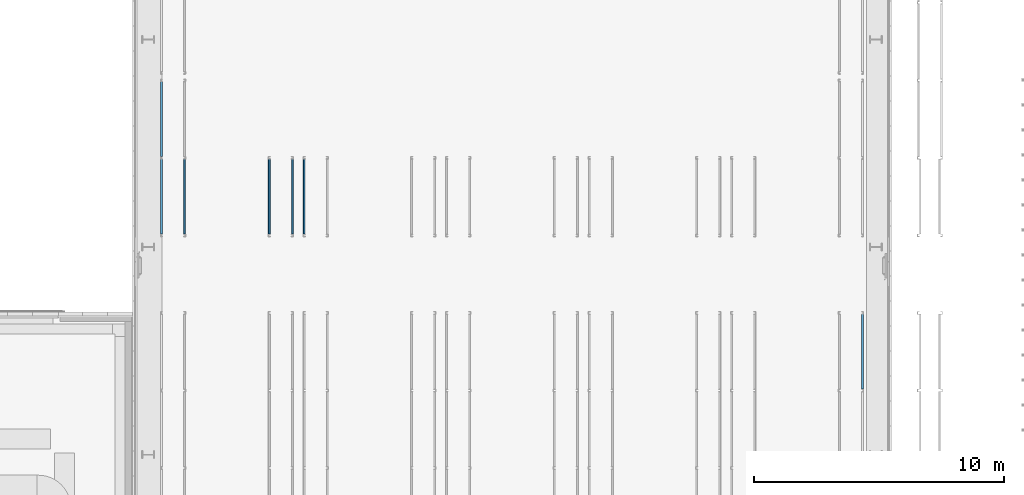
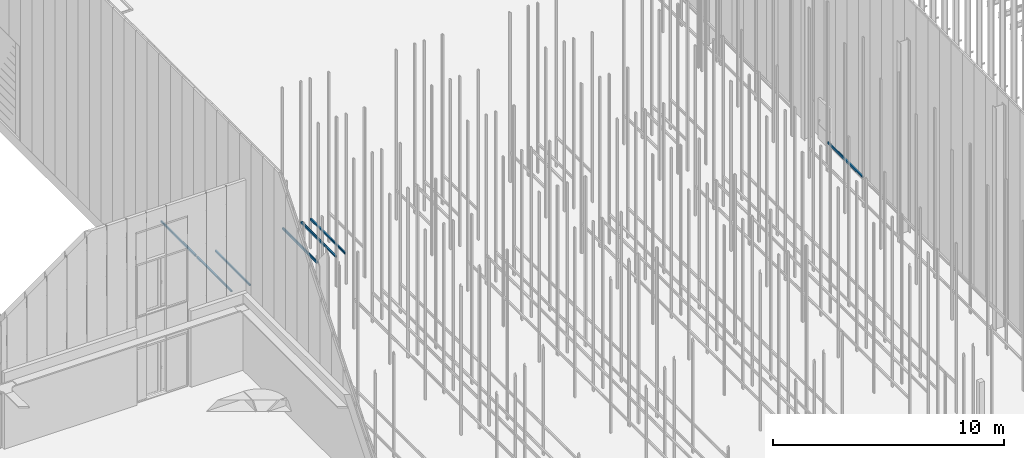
# One storey, part 153 of 302: 9 beams.
"""IFC2X3 building model written with IfcOpenShell, lengths in metres."""

from ifc_helpers import new_model, entity, si_unit, converted_unit, derived_unit, direction, frame, frame_2d, origin, place, context, subcontext, project, spatial, polyline, circle_curve, parameter, trimmed, segment, composite_curve, outline, extrude, material, type_object, element, save


model = new_model("IFC2X3")

# Units and contexts
model_context = context("Model", 3, precision=1e-05, world=origin(), true_north=direction((6.12303176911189e-17, 1.0)))
body_context = subcontext(model_context, "Body", "Model", "MODEL_VIEW")
ifc_project = project(units=[si_unit("LENGTHUNIT", "METRE"), si_unit("AREAUNIT", "SQUARE_METRE"), si_unit("VOLUMEUNIT", "CUBIC_METRE"), converted_unit("PLANEANGLEUNIT", "DEGREE", entity("IfcRatioMeasure", 0.0174532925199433), si_unit("PLANEANGLEUNIT", "RADIAN"), dimensions=[0, 0, 0, 0, 0, 0, 0]), si_unit("MASSUNIT", "GRAM", prefix="KILO"), derived_unit("MASSDENSITYUNIT", [(si_unit("MASSUNIT", "GRAM", prefix="KILO"), 1), (si_unit("LENGTHUNIT", "METRE"), -3)]), derived_unit("MOMENTOFINERTIAUNIT", [(si_unit("LENGTHUNIT", "METRE"), 4)]), si_unit("TIMEUNIT", "SECOND"), si_unit("FREQUENCYUNIT", "HERTZ"), si_unit("THERMODYNAMICTEMPERATUREUNIT", "DEGREE_CELSIUS"), derived_unit("THERMALTRANSMITTANCEUNIT", [(si_unit("MASSUNIT", "GRAM", prefix="KILO"), 1), (si_unit("THERMODYNAMICTEMPERATUREUNIT", "KELVIN"), -1), (si_unit("TIMEUNIT", "SECOND"), -3)]), derived_unit("VOLUMETRICFLOWRATEUNIT", [(si_unit("LENGTHUNIT", "METRE"), 3), (si_unit("TIMEUNIT", "SECOND"), -1)]), si_unit("ELECTRICCURRENTUNIT", "AMPERE"), si_unit("ELECTRICVOLTAGEUNIT", "VOLT"), si_unit("POWERUNIT", "WATT"), si_unit("FORCEUNIT", "NEWTON", prefix="KILO"), si_unit("ILLUMINANCEUNIT", "LUX"), si_unit("LUMINOUSFLUXUNIT", "LUMEN"), si_unit("LUMINOUSINTENSITYUNIT", "CANDELA"), derived_unit("USERDEFINED", [(si_unit("MASSUNIT", "GRAM", prefix="KILO"), -1), (si_unit("LENGTHUNIT", "METRE"), -2), (si_unit("TIMEUNIT", "SECOND"), 3), (si_unit("LUMINOUSFLUXUNIT", "LUMEN"), 1)]), derived_unit("LINEARVELOCITYUNIT", [(si_unit("LENGTHUNIT", "METRE"), 1), (si_unit("TIMEUNIT", "SECOND"), -1)]), si_unit("PRESSUREUNIT", "PASCAL"), derived_unit("USERDEFINED", [(si_unit("LENGTHUNIT", "METRE"), -2), (si_unit("MASSUNIT", "GRAM", prefix="KILO"), 1), (si_unit("TIMEUNIT", "SECOND"), -2)]), derived_unit("LINEARFORCEUNIT", [(si_unit("MASSUNIT", "GRAM", prefix="KILO"), 1), (si_unit("LENGTHUNIT", "METRE"), 1), (si_unit("TIMEUNIT", "SECOND"), -2), (si_unit("LENGTHUNIT", "METRE"), -1)]), derived_unit("PLANARFORCEUNIT", [(si_unit("MASSUNIT", "GRAM", prefix="KILO"), 1), (si_unit("LENGTHUNIT", "METRE"), 1), (si_unit("TIMEUNIT", "SECOND"), -2), (si_unit("LENGTHUNIT", "METRE"), -2)])], contexts=[model_context])

# Site, building, storey
site_placement = place(None, origin())
site = spatial("IfcSite", under=ifc_project, at=site_placement, Name="Default", CompositionType="ELEMENT")
building_placement = place(site_placement, origin())
building = spatial("IfcBuilding", under=site, at=building_placement, CompositionType="ELEMENT")
storey_placement = place(building_placement, frame((0.0, 0.0, -1.3)))
storey = spatial("IfcBuildingStorey", under=building, at=storey_placement, Name="00_EG", CompositionType="ELEMENT", Elevation=-1.3)

# Beams
ifc_material = material(Name="Metall - Baustahl S235 blau")
beam_type = type_object("IfcBeamType", Name="RHS Träger (EN 10219-2):RHS 100 x 75 x 5", PredefinedType="NOTDEFINED")
beam_1_placement = place(storey_placement, frame((-178.465111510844, 42.6480889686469, 2.885), z_axis=(0.0, 0.0, 1.0), x_axis=(0.0, 1.0, 0.0)))
element("IfcBeam", 1, at=beam_1_placement, inside=storey, type_object=beam_type, material=ifc_material, Name="RHS Träger (EN 10219-2):RHS 100 x 75 x 5", ObjectType="RHS Träger (EN 10219-2):RHS 100 x 75 x 5", context=body_context, shape_type="SweptSolid", body=[
    extrude(outline(composite_curve([segment(polyline([(-0.0399999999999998, -0.0374999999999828), (0.0400000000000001, -0.0374999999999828)]), True, "CONTINUOUS"), segment(trimmed(circle_curve(frame_2d((0.0399999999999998, -0.0274999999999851), x_axis=(0.0, 1.0)), 0.01), [parameter(180.0)], [parameter(270.0)], True, "PARAMETER"), True, "CONTINUOUS"), segment(polyline([(0.05, -0.0274999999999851), (0.05, 0.0274999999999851)]), True, "CONTINUOUS"), segment(trimmed(circle_curve(frame_2d((0.0399999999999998, 0.0274999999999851), x_axis=(0.0, 1.0)), 0.01), [parameter(270.0)], [parameter(4.07110999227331e-13)], True, "PARAMETER"), True, "CONTINUOUS"), segment(polyline([(0.0400000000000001, 0.0375000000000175), (-0.0399999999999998, 0.0375000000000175)]), True, "CONTINUOUS"), segment(trimmed(circle_curve(frame_2d((-0.0400000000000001, 0.0274999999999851), x_axis=(0.0, 1.0)), 0.01), [parameter(360.0)], [parameter(90.0000000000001)], True, "PARAMETER"), True, "CONTINUOUS"), segment(polyline([(-0.05, 0.0274999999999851), (-0.05, -0.0274999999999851)]), True, "CONTINUOUS"), segment(trimmed(circle_curve(frame_2d((-0.0400000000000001, -0.0274999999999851), x_axis=(0.0, 1.0)), 0.01), [parameter(90.0000000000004)], [parameter(180.0)], True, "PARAMETER"), True, "CONTINUOUS")], self_intersect=False), holes=[composite_curve([segment(trimmed(circle_curve(frame_2d((-0.0400000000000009, 0.0274999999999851), x_axis=(0.0, 1.0)), 0.005), [parameter(360.0)], [parameter(89.9999999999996)], True, "PARAMETER"), False, "CONTINUOUS"), segment(polyline([(-0.0400000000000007, 0.0325000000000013), (0.0399999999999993, 0.0325000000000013)]), True, "CONTINUOUS"), segment(trimmed(circle_curve(frame_2d((0.039999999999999, 0.0274999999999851), x_axis=(0.0, 1.0)), 0.005), [parameter(270.0)], [parameter(0.0)], True, "PARAMETER"), False, "CONTINUOUS"), segment(polyline([(0.0449999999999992, 0.0274999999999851), (0.0449999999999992, -0.0274999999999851)]), True, "CONTINUOUS"), segment(trimmed(circle_curve(frame_2d((0.039999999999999, -0.0274999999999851), x_axis=(0.0, 1.0)), 0.005), [parameter(180.0)], [parameter(269.999999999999)], True, "PARAMETER"), False, "CONTINUOUS"), segment(polyline([(0.0399999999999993, -0.0325000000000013), (-0.0400000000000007, -0.0325000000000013)]), True, "CONTINUOUS"), segment(trimmed(circle_curve(frame_2d((-0.0400000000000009, -0.0274999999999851), x_axis=(0.0, 1.0)), 0.005), [parameter(90.0000000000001)], [parameter(180.0)], True, "PARAMETER"), False, "CONTINUOUS"), segment(polyline([(-0.0450000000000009, -0.0274999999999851), (-0.0450000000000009, 0.0274999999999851)]), True, "CONTINUOUS")], self_intersect=False)]), frame((0.000100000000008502, -0.0375000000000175, -0.0500000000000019), z_axis=(1.0, 0.0, 0.0), x_axis=(0.0, 0.0, -1.0)), (0.0, 0.0, 1.0), 2.99979999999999),
])
beam_2_placement = place(storey_placement, frame((-200.715111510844, 48.848088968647, 2.885), z_axis=(0.0, 0.0, 1.0), x_axis=(0.0, 1.0, 0.0)))
element("IfcBeam", 2, at=beam_2_placement, inside=storey, type_object=beam_type, material=ifc_material, Name="RHS Träger (EN 10219-2):RHS 100 x 75 x 5", ObjectType="RHS Träger (EN 10219-2):RHS 100 x 75 x 5", context=body_context, shape_type="SweptSolid", body=[
    extrude(outline(composite_curve([segment(trimmed(circle_curve(frame_2d((-0.0274999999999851, -0.0400000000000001), x_axis=(1.0, 0.0)), 0.01), [parameter(180.0)], [parameter(270.0)], True, "PARAMETER"), True, "CONTINUOUS"), segment(polyline([(-0.0274999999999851, -0.05), (0.0274999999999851, -0.05)]), True, "CONTINUOUS"), segment(trimmed(circle_curve(frame_2d((0.0274999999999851, -0.0400000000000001), x_axis=(1.0, 0.0)), 0.01), [parameter(270.0)], [parameter(5.08888749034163e-14)], True, "PARAMETER"), True, "CONTINUOUS"), segment(polyline([(0.0375000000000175, -0.0399999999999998), (0.0375000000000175, 0.0400000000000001)]), True, "CONTINUOUS"), segment(trimmed(circle_curve(frame_2d((0.0274999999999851, 0.0399999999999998), x_axis=(1.0, 0.0)), 0.01), [parameter(360.0)], [parameter(89.9999999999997)], True, "PARAMETER"), True, "CONTINUOUS"), segment(polyline([(0.0274999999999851, 0.05), (-0.0274999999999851, 0.05)]), True, "CONTINUOUS"), segment(trimmed(circle_curve(frame_2d((-0.0274999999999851, 0.0399999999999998), x_axis=(1.0, 0.0)), 0.01), [parameter(90.0000000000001)], [parameter(180.0)], True, "PARAMETER"), True, "CONTINUOUS"), segment(polyline([(-0.0374999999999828, 0.0400000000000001), (-0.0374999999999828, -0.0399999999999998)]), True, "CONTINUOUS")], self_intersect=False), holes=[composite_curve([segment(polyline([(0.0274999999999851, -0.0450000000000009), (-0.0274999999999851, -0.0450000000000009)]), True, "CONTINUOUS"), segment(trimmed(circle_curve(frame_2d((-0.0274999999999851, -0.0400000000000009), x_axis=(1.0, 0.0)), 0.005), [parameter(180.0)], [parameter(270.0)], True, "PARAMETER"), False, "CONTINUOUS"), segment(polyline([(-0.0325000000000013, -0.0400000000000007), (-0.0325000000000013, 0.0399999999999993)]), True, "CONTINUOUS"), segment(trimmed(circle_curve(frame_2d((-0.0274999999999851, 0.039999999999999), x_axis=(1.0, 0.0)), 0.005), [parameter(90.0000000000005)], [parameter(180.0)], True, "PARAMETER"), False, "CONTINUOUS"), segment(polyline([(-0.0274999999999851, 0.0449999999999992), (0.0274999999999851, 0.0449999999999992)]), True, "CONTINUOUS"), segment(trimmed(circle_curve(frame_2d((0.0274999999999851, 0.039999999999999), x_axis=(1.0, 0.0)), 0.005), [parameter(0.0)], [parameter(90.0000000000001)], True, "PARAMETER"), False, "CONTINUOUS"), segment(polyline([(0.0325000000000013, 0.0399999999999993), (0.0325000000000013, -0.0400000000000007)]), True, "CONTINUOUS"), segment(trimmed(circle_curve(frame_2d((0.0274999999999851, -0.0400000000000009), x_axis=(1.0, 0.0)), 0.005), [parameter(270.0)], [parameter(4.07110999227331e-13)], True, "PARAMETER"), False, "CONTINUOUS")], self_intersect=False)]), frame((0.000100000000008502, 0.0375000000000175, -0.0500000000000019), z_axis=(1.0, 0.0, 0.0), x_axis=(0.0, -1.0, 0.0)), (0.0, 0.0, 1.0), 2.99979999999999),
])
beam_3_placement = place(storey_placement, frame((-202.105111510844, 48.848088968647, 2.885), z_axis=(0.0, 0.0, 1.0), x_axis=(0.0, 1.0, 0.0)))
element("IfcBeam", 3, at=beam_3_placement, inside=storey, type_object=beam_type, material=ifc_material, Name="RHS Träger (EN 10219-2):RHS 100 x 75 x 5", ObjectType="RHS Träger (EN 10219-2):RHS 100 x 75 x 5", context=body_context, shape_type="SweptSolid", body=[
    extrude(outline(composite_curve([segment(trimmed(circle_curve(frame_2d((-0.0274999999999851, -0.0400000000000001), x_axis=(1.0, 0.0)), 0.01), [parameter(180.0)], [parameter(270.0)], True, "PARAMETER"), True, "CONTINUOUS"), segment(polyline([(-0.0274999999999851, -0.05), (0.0274999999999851, -0.05)]), True, "CONTINUOUS"), segment(trimmed(circle_curve(frame_2d((0.0274999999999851, -0.0400000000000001), x_axis=(1.0, 0.0)), 0.01), [parameter(270.0)], [parameter(5.08888749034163e-14)], True, "PARAMETER"), True, "CONTINUOUS"), segment(polyline([(0.0375000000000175, -0.0399999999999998), (0.0375000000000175, 0.0400000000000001)]), True, "CONTINUOUS"), segment(trimmed(circle_curve(frame_2d((0.0274999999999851, 0.0399999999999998), x_axis=(1.0, 0.0)), 0.01), [parameter(360.0)], [parameter(89.9999999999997)], True, "PARAMETER"), True, "CONTINUOUS"), segment(polyline([(0.0274999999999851, 0.05), (-0.0274999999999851, 0.05)]), True, "CONTINUOUS"), segment(trimmed(circle_curve(frame_2d((-0.0274999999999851, 0.0399999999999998), x_axis=(1.0, 0.0)), 0.01), [parameter(90.0000000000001)], [parameter(180.0)], True, "PARAMETER"), True, "CONTINUOUS"), segment(polyline([(-0.0374999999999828, 0.0400000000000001), (-0.0374999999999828, -0.0399999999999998)]), True, "CONTINUOUS")], self_intersect=False), holes=[composite_curve([segment(polyline([(0.0274999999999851, -0.0450000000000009), (-0.0274999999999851, -0.0450000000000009)]), True, "CONTINUOUS"), segment(trimmed(circle_curve(frame_2d((-0.0274999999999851, -0.0400000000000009), x_axis=(1.0, 0.0)), 0.005), [parameter(180.0)], [parameter(270.0)], True, "PARAMETER"), False, "CONTINUOUS"), segment(polyline([(-0.0325000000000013, -0.0400000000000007), (-0.0325000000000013, 0.0399999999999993)]), True, "CONTINUOUS"), segment(trimmed(circle_curve(frame_2d((-0.0274999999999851, 0.039999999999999), x_axis=(1.0, 0.0)), 0.005), [parameter(90.0000000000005)], [parameter(180.0)], True, "PARAMETER"), False, "CONTINUOUS"), segment(polyline([(-0.0274999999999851, 0.0449999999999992), (0.0274999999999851, 0.0449999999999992)]), True, "CONTINUOUS"), segment(trimmed(circle_curve(frame_2d((0.0274999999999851, 0.039999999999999), x_axis=(1.0, 0.0)), 0.005), [parameter(0.0)], [parameter(90.0000000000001)], True, "PARAMETER"), False, "CONTINUOUS"), segment(polyline([(0.0325000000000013, 0.0399999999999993), (0.0325000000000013, -0.0400000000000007)]), True, "CONTINUOUS"), segment(trimmed(circle_curve(frame_2d((0.0274999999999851, -0.0400000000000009), x_axis=(1.0, 0.0)), 0.005), [parameter(270.0)], [parameter(4.07110999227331e-13)], True, "PARAMETER"), False, "CONTINUOUS")], self_intersect=False)]), frame((0.000100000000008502, 0.0375000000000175, -0.0500000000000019), z_axis=(1.0, 0.0, 0.0), x_axis=(0.0, -1.0, 0.0)), (0.0, 0.0, 1.0), 2.99979999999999),
])
beam_4_placement = place(storey_placement, frame((-201.255111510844, 48.848088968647, 2.885), z_axis=(0.0, 0.0, 1.0), x_axis=(0.0, 1.0, 0.0)))
element("IfcBeam", 4, at=beam_4_placement, inside=storey, type_object=beam_type, material=ifc_material, Name="RHS Träger (EN 10219-2):RHS 100 x 75 x 5", ObjectType="RHS Träger (EN 10219-2):RHS 100 x 75 x 5", context=body_context, shape_type="SweptSolid", body=[
    extrude(outline(composite_curve([segment(polyline([(-0.0399999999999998, -0.0374999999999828), (0.0400000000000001, -0.0374999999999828)]), True, "CONTINUOUS"), segment(trimmed(circle_curve(frame_2d((0.0399999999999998, -0.0274999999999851), x_axis=(0.0, 1.0)), 0.01), [parameter(180.0)], [parameter(270.0)], True, "PARAMETER"), True, "CONTINUOUS"), segment(polyline([(0.05, -0.0274999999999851), (0.05, 0.0274999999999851)]), True, "CONTINUOUS"), segment(trimmed(circle_curve(frame_2d((0.0399999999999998, 0.0274999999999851), x_axis=(0.0, 1.0)), 0.01), [parameter(270.0)], [parameter(4.07110999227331e-13)], True, "PARAMETER"), True, "CONTINUOUS"), segment(polyline([(0.0400000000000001, 0.0375000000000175), (-0.0399999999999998, 0.0375000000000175)]), True, "CONTINUOUS"), segment(trimmed(circle_curve(frame_2d((-0.0400000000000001, 0.0274999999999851), x_axis=(0.0, 1.0)), 0.01), [parameter(360.0)], [parameter(90.0000000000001)], True, "PARAMETER"), True, "CONTINUOUS"), segment(polyline([(-0.05, 0.0274999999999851), (-0.05, -0.0274999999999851)]), True, "CONTINUOUS"), segment(trimmed(circle_curve(frame_2d((-0.0400000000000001, -0.0274999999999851), x_axis=(0.0, 1.0)), 0.01), [parameter(90.0000000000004)], [parameter(180.0)], True, "PARAMETER"), True, "CONTINUOUS")], self_intersect=False), holes=[composite_curve([segment(trimmed(circle_curve(frame_2d((-0.0400000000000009, 0.0274999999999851), x_axis=(0.0, 1.0)), 0.005), [parameter(360.0)], [parameter(89.9999999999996)], True, "PARAMETER"), False, "CONTINUOUS"), segment(polyline([(-0.0400000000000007, 0.0325000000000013), (0.0399999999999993, 0.0325000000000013)]), True, "CONTINUOUS"), segment(trimmed(circle_curve(frame_2d((0.039999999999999, 0.0274999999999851), x_axis=(0.0, 1.0)), 0.005), [parameter(270.0)], [parameter(0.0)], True, "PARAMETER"), False, "CONTINUOUS"), segment(polyline([(0.0449999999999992, 0.0274999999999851), (0.0449999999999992, -0.0274999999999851)]), True, "CONTINUOUS"), segment(trimmed(circle_curve(frame_2d((0.039999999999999, -0.0274999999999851), x_axis=(0.0, 1.0)), 0.005), [parameter(180.0)], [parameter(269.999999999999)], True, "PARAMETER"), False, "CONTINUOUS"), segment(polyline([(0.0399999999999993, -0.0325000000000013), (-0.0400000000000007, -0.0325000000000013)]), True, "CONTINUOUS"), segment(trimmed(circle_curve(frame_2d((-0.0400000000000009, -0.0274999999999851), x_axis=(0.0, 1.0)), 0.005), [parameter(90.0000000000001)], [parameter(180.0)], True, "PARAMETER"), False, "CONTINUOUS"), segment(polyline([(-0.0450000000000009, -0.0274999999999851), (-0.0450000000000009, 0.0274999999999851)]), True, "CONTINUOUS")], self_intersect=False)]), frame((0.000100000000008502, -0.0375000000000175, -0.0500000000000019), z_axis=(1.0, 0.0, 0.0), x_axis=(0.0, 0.0, -1.0)), (0.0, 0.0, 1.0), 2.99979999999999),
])
beam_5_placement = place(storey_placement, frame((-206.415111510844, 48.848088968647, 2.885), z_axis=(0.0, 0.0, 1.0), x_axis=(0.0, 1.0, 0.0)))
element("IfcBeam", 5, at=beam_5_placement, inside=storey, type_object=beam_type, material=ifc_material, Name="RHS Träger (EN 10219-2):RHS 100 x 75 x 5", ObjectType="RHS Träger (EN 10219-2):RHS 100 x 75 x 5", context=body_context, shape_type="SweptSolid", body=[
    extrude(outline(composite_curve([segment(trimmed(circle_curve(frame_2d((-0.0274999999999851, -0.0400000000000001), x_axis=(1.0, 0.0)), 0.01), [parameter(180.0)], [parameter(270.0)], True, "PARAMETER"), True, "CONTINUOUS"), segment(polyline([(-0.0274999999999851, -0.05), (0.0274999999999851, -0.05)]), True, "CONTINUOUS"), segment(trimmed(circle_curve(frame_2d((0.0274999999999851, -0.0400000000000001), x_axis=(1.0, 0.0)), 0.01), [parameter(270.0)], [parameter(5.08888749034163e-14)], True, "PARAMETER"), True, "CONTINUOUS"), segment(polyline([(0.0375000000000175, -0.0399999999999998), (0.0375000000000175, 0.0400000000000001)]), True, "CONTINUOUS"), segment(trimmed(circle_curve(frame_2d((0.0274999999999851, 0.0399999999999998), x_axis=(1.0, 0.0)), 0.01), [parameter(360.0)], [parameter(89.9999999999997)], True, "PARAMETER"), True, "CONTINUOUS"), segment(polyline([(0.0274999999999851, 0.05), (-0.0274999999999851, 0.05)]), True, "CONTINUOUS"), segment(trimmed(circle_curve(frame_2d((-0.0274999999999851, 0.0399999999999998), x_axis=(1.0, 0.0)), 0.01), [parameter(90.0000000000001)], [parameter(180.0)], True, "PARAMETER"), True, "CONTINUOUS"), segment(polyline([(-0.0374999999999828, 0.0400000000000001), (-0.0374999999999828, -0.0399999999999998)]), True, "CONTINUOUS")], self_intersect=False), holes=[composite_curve([segment(polyline([(0.0274999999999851, -0.0450000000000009), (-0.0274999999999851, -0.0450000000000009)]), True, "CONTINUOUS"), segment(trimmed(circle_curve(frame_2d((-0.0274999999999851, -0.0400000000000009), x_axis=(1.0, 0.0)), 0.005), [parameter(180.0)], [parameter(270.0)], True, "PARAMETER"), False, "CONTINUOUS"), segment(polyline([(-0.0325000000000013, -0.0400000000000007), (-0.0325000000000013, 0.0399999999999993)]), True, "CONTINUOUS"), segment(trimmed(circle_curve(frame_2d((-0.0274999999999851, 0.039999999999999), x_axis=(1.0, 0.0)), 0.005), [parameter(90.0000000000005)], [parameter(180.0)], True, "PARAMETER"), False, "CONTINUOUS"), segment(polyline([(-0.0274999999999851, 0.0449999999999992), (0.0274999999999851, 0.0449999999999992)]), True, "CONTINUOUS"), segment(trimmed(circle_curve(frame_2d((0.0274999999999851, 0.039999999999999), x_axis=(1.0, 0.0)), 0.005), [parameter(0.0)], [parameter(90.0000000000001)], True, "PARAMETER"), False, "CONTINUOUS"), segment(polyline([(0.0325000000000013, 0.0399999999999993), (0.0325000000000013, -0.0400000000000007)]), True, "CONTINUOUS"), segment(trimmed(circle_curve(frame_2d((0.0274999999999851, -0.0400000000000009), x_axis=(1.0, 0.0)), 0.005), [parameter(270.0)], [parameter(4.07110999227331e-13)], True, "PARAMETER"), False, "CONTINUOUS")], self_intersect=False)]), frame((0.000100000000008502, 0.0375000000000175, -0.0500000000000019), z_axis=(1.0, 0.0, 0.0), x_axis=(0.0, -1.0, 0.0)), (0.0, 0.0, 1.0), 2.99979999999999),
])
beam_6_placement = place(storey_placement, frame((-205.565111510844, 48.848088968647, 2.885), z_axis=(0.0, 0.0, 1.0), x_axis=(0.0, 1.0, 0.0)))
element("IfcBeam", 6, at=beam_6_placement, inside=storey, type_object=beam_type, material=ifc_material, Name="RHS Träger (EN 10219-2):RHS 100 x 75 x 5", ObjectType="RHS Träger (EN 10219-2):RHS 100 x 75 x 5", context=body_context, shape_type="SweptSolid", body=[
    extrude(outline(composite_curve([segment(polyline([(-0.0399999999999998, -0.0374999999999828), (0.0400000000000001, -0.0374999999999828)]), True, "CONTINUOUS"), segment(trimmed(circle_curve(frame_2d((0.0399999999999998, -0.0274999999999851), x_axis=(0.0, 1.0)), 0.01), [parameter(180.0)], [parameter(270.0)], True, "PARAMETER"), True, "CONTINUOUS"), segment(polyline([(0.05, -0.0274999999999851), (0.05, 0.0274999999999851)]), True, "CONTINUOUS"), segment(trimmed(circle_curve(frame_2d((0.0399999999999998, 0.0274999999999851), x_axis=(0.0, 1.0)), 0.01), [parameter(270.0)], [parameter(4.07110999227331e-13)], True, "PARAMETER"), True, "CONTINUOUS"), segment(polyline([(0.0400000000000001, 0.0375000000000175), (-0.0399999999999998, 0.0375000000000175)]), True, "CONTINUOUS"), segment(trimmed(circle_curve(frame_2d((-0.0400000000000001, 0.0274999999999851), x_axis=(0.0, 1.0)), 0.01), [parameter(360.0)], [parameter(90.0000000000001)], True, "PARAMETER"), True, "CONTINUOUS"), segment(polyline([(-0.05, 0.0274999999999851), (-0.05, -0.0274999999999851)]), True, "CONTINUOUS"), segment(trimmed(circle_curve(frame_2d((-0.0400000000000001, -0.0274999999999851), x_axis=(0.0, 1.0)), 0.01), [parameter(90.0000000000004)], [parameter(180.0)], True, "PARAMETER"), True, "CONTINUOUS")], self_intersect=False), holes=[composite_curve([segment(trimmed(circle_curve(frame_2d((-0.0400000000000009, 0.0274999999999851), x_axis=(0.0, 1.0)), 0.005), [parameter(360.0)], [parameter(89.9999999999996)], True, "PARAMETER"), False, "CONTINUOUS"), segment(polyline([(-0.0400000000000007, 0.0325000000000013), (0.0399999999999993, 0.0325000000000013)]), True, "CONTINUOUS"), segment(trimmed(circle_curve(frame_2d((0.039999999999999, 0.0274999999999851), x_axis=(0.0, 1.0)), 0.005), [parameter(270.0)], [parameter(0.0)], True, "PARAMETER"), False, "CONTINUOUS"), segment(polyline([(0.0449999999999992, 0.0274999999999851), (0.0449999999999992, -0.0274999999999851)]), True, "CONTINUOUS"), segment(trimmed(circle_curve(frame_2d((0.039999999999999, -0.0274999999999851), x_axis=(0.0, 1.0)), 0.005), [parameter(180.0)], [parameter(269.999999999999)], True, "PARAMETER"), False, "CONTINUOUS"), segment(polyline([(0.0399999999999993, -0.0325000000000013), (-0.0400000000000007, -0.0325000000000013)]), True, "CONTINUOUS"), segment(trimmed(circle_curve(frame_2d((-0.0400000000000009, -0.0274999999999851), x_axis=(0.0, 1.0)), 0.005), [parameter(90.0000000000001)], [parameter(180.0)], True, "PARAMETER"), False, "CONTINUOUS"), segment(polyline([(-0.0450000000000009, -0.0274999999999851), (-0.0450000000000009, 0.0274999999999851)]), True, "CONTINUOUS")], self_intersect=False)]), frame((0.000100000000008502, -0.0375000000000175, -0.0500000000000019), z_axis=(1.0, 0.0, 0.0), x_axis=(0.0, 0.0, -1.0)), (0.0, 0.0, 1.0), 2.99979999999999),
])
beam_7_placement = place(storey_placement, frame((-202.115111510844, 48.848088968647, 2.885), z_axis=(0.0, 0.0, 1.0), x_axis=(0.0, 1.0, 0.0)))
element("IfcBeam", 7, at=beam_7_placement, inside=storey, type_object=beam_type, material=ifc_material, Name="RHS Träger (EN 10219-2):RHS 100 x 75 x 5", ObjectType="RHS Träger (EN 10219-2):RHS 100 x 75 x 5", context=body_context, shape_type="SweptSolid", body=[
    extrude(outline(composite_curve([segment(trimmed(circle_curve(frame_2d((-0.0274999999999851, -0.0400000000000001), x_axis=(1.0, 0.0)), 0.01), [parameter(180.0)], [parameter(270.0)], True, "PARAMETER"), True, "CONTINUOUS"), segment(polyline([(-0.0274999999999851, -0.05), (0.0274999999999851, -0.05)]), True, "CONTINUOUS"), segment(trimmed(circle_curve(frame_2d((0.0274999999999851, -0.0400000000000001), x_axis=(1.0, 0.0)), 0.01), [parameter(270.0)], [parameter(5.08888749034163e-14)], True, "PARAMETER"), True, "CONTINUOUS"), segment(polyline([(0.0375000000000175, -0.0399999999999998), (0.0375000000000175, 0.0400000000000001)]), True, "CONTINUOUS"), segment(trimmed(circle_curve(frame_2d((0.0274999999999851, 0.0399999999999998), x_axis=(1.0, 0.0)), 0.01), [parameter(360.0)], [parameter(89.9999999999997)], True, "PARAMETER"), True, "CONTINUOUS"), segment(polyline([(0.0274999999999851, 0.05), (-0.0274999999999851, 0.05)]), True, "CONTINUOUS"), segment(trimmed(circle_curve(frame_2d((-0.0274999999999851, 0.0399999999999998), x_axis=(1.0, 0.0)), 0.01), [parameter(90.0000000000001)], [parameter(180.0)], True, "PARAMETER"), True, "CONTINUOUS"), segment(polyline([(-0.0374999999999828, 0.0400000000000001), (-0.0374999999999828, -0.0399999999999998)]), True, "CONTINUOUS")], self_intersect=False), holes=[composite_curve([segment(polyline([(0.0274999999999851, -0.0450000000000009), (-0.0274999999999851, -0.0450000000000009)]), True, "CONTINUOUS"), segment(trimmed(circle_curve(frame_2d((-0.0274999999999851, -0.0400000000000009), x_axis=(1.0, 0.0)), 0.005), [parameter(180.0)], [parameter(270.0)], True, "PARAMETER"), False, "CONTINUOUS"), segment(polyline([(-0.0325000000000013, -0.0400000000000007), (-0.0325000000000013, 0.0399999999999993)]), True, "CONTINUOUS"), segment(trimmed(circle_curve(frame_2d((-0.0274999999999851, 0.039999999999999), x_axis=(1.0, 0.0)), 0.005), [parameter(90.0000000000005)], [parameter(180.0)], True, "PARAMETER"), False, "CONTINUOUS"), segment(polyline([(-0.0274999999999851, 0.0449999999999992), (0.0274999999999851, 0.0449999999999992)]), True, "CONTINUOUS"), segment(trimmed(circle_curve(frame_2d((0.0274999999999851, 0.039999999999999), x_axis=(1.0, 0.0)), 0.005), [parameter(0.0)], [parameter(90.0000000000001)], True, "PARAMETER"), False, "CONTINUOUS"), segment(polyline([(0.0325000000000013, 0.0399999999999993), (0.0325000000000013, -0.0400000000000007)]), True, "CONTINUOUS"), segment(trimmed(circle_curve(frame_2d((0.0274999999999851, -0.0400000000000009), x_axis=(1.0, 0.0)), 0.005), [parameter(270.0)], [parameter(4.07110999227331e-13)], True, "PARAMETER"), False, "CONTINUOUS")], self_intersect=False)]), frame((0.000100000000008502, 0.0375000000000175, -0.0500000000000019), z_axis=(1.0, 0.0, 0.0), x_axis=(0.0, -1.0, 0.0)), (0.0, 0.0, 1.0), 2.99979999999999),
])
beam_8_placement = place(storey_placement, frame((-201.265111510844, 48.848088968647, 2.885), z_axis=(0.0, 0.0, 1.0), x_axis=(0.0, 1.0, 0.0)))
element("IfcBeam", 8, at=beam_8_placement, inside=storey, type_object=beam_type, material=ifc_material, Name="RHS Träger (EN 10219-2):RHS 100 x 75 x 5", ObjectType="RHS Träger (EN 10219-2):RHS 100 x 75 x 5", context=body_context, shape_type="SweptSolid", body=[
    extrude(outline(composite_curve([segment(polyline([(-0.0399999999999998, -0.0374999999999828), (0.0400000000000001, -0.0374999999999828)]), True, "CONTINUOUS"), segment(trimmed(circle_curve(frame_2d((0.0399999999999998, -0.0274999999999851), x_axis=(0.0, 1.0)), 0.01), [parameter(180.0)], [parameter(270.0)], True, "PARAMETER"), True, "CONTINUOUS"), segment(polyline([(0.05, -0.0274999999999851), (0.05, 0.0274999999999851)]), True, "CONTINUOUS"), segment(trimmed(circle_curve(frame_2d((0.0399999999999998, 0.0274999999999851), x_axis=(0.0, 1.0)), 0.01), [parameter(270.0)], [parameter(4.07110999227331e-13)], True, "PARAMETER"), True, "CONTINUOUS"), segment(polyline([(0.0400000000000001, 0.0375000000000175), (-0.0399999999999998, 0.0375000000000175)]), True, "CONTINUOUS"), segment(trimmed(circle_curve(frame_2d((-0.0400000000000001, 0.0274999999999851), x_axis=(0.0, 1.0)), 0.01), [parameter(360.0)], [parameter(90.0000000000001)], True, "PARAMETER"), True, "CONTINUOUS"), segment(polyline([(-0.05, 0.0274999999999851), (-0.05, -0.0274999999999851)]), True, "CONTINUOUS"), segment(trimmed(circle_curve(frame_2d((-0.0400000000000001, -0.0274999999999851), x_axis=(0.0, 1.0)), 0.01), [parameter(90.0000000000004)], [parameter(180.0)], True, "PARAMETER"), True, "CONTINUOUS")], self_intersect=False), holes=[composite_curve([segment(trimmed(circle_curve(frame_2d((-0.0400000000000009, 0.0274999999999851), x_axis=(0.0, 1.0)), 0.005), [parameter(360.0)], [parameter(89.9999999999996)], True, "PARAMETER"), False, "CONTINUOUS"), segment(polyline([(-0.0400000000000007, 0.0325000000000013), (0.0399999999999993, 0.0325000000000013)]), True, "CONTINUOUS"), segment(trimmed(circle_curve(frame_2d((0.039999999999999, 0.0274999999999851), x_axis=(0.0, 1.0)), 0.005), [parameter(270.0)], [parameter(0.0)], True, "PARAMETER"), False, "CONTINUOUS"), segment(polyline([(0.0449999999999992, 0.0274999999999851), (0.0449999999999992, -0.0274999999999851)]), True, "CONTINUOUS"), segment(trimmed(circle_curve(frame_2d((0.039999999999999, -0.0274999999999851), x_axis=(0.0, 1.0)), 0.005), [parameter(180.0)], [parameter(269.999999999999)], True, "PARAMETER"), False, "CONTINUOUS"), segment(polyline([(0.0399999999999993, -0.0325000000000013), (-0.0400000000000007, -0.0325000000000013)]), True, "CONTINUOUS"), segment(trimmed(circle_curve(frame_2d((-0.0400000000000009, -0.0274999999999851), x_axis=(0.0, 1.0)), 0.005), [parameter(90.0000000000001)], [parameter(180.0)], True, "PARAMETER"), False, "CONTINUOUS"), segment(polyline([(-0.0450000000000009, -0.0274999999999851), (-0.0450000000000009, 0.0274999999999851)]), True, "CONTINUOUS")], self_intersect=False)]), frame((0.000100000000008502, -0.0375000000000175, -0.0500000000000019), z_axis=(1.0, 0.0, 0.0), x_axis=(0.0, 0.0, -1.0)), (0.0, 0.0, 1.0), 2.99979999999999),
])
beam_9_placement = place(storey_placement, frame((-206.415111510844, 51.948088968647, 2.885), z_axis=(0.0, 0.0, 1.0), x_axis=(0.0, 1.0, 0.0)))
element("IfcBeam", 9, at=beam_9_placement, inside=storey, type_object=beam_type, material=ifc_material, Name="RHS Träger (EN 10219-2):RHS 100 x 75 x 5", ObjectType="RHS Träger (EN 10219-2):RHS 100 x 75 x 5", context=body_context, shape_type="SweptSolid", body=[
    extrude(outline(composite_curve([segment(trimmed(circle_curve(frame_2d((-0.0274999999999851, -0.0400000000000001), x_axis=(1.0, 0.0)), 0.01), [parameter(180.0)], [parameter(270.0)], True, "PARAMETER"), True, "CONTINUOUS"), segment(polyline([(-0.0274999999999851, -0.05), (0.0274999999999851, -0.05)]), True, "CONTINUOUS"), segment(trimmed(circle_curve(frame_2d((0.0274999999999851, -0.0400000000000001), x_axis=(1.0, 0.0)), 0.01), [parameter(270.0)], [parameter(5.08888749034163e-14)], True, "PARAMETER"), True, "CONTINUOUS"), segment(polyline([(0.0375000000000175, -0.0399999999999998), (0.0375000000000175, 0.0400000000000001)]), True, "CONTINUOUS"), segment(trimmed(circle_curve(frame_2d((0.0274999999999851, 0.0399999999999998), x_axis=(1.0, 0.0)), 0.01), [parameter(360.0)], [parameter(89.9999999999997)], True, "PARAMETER"), True, "CONTINUOUS"), segment(polyline([(0.0274999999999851, 0.05), (-0.0274999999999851, 0.05)]), True, "CONTINUOUS"), segment(trimmed(circle_curve(frame_2d((-0.0274999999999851, 0.0399999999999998), x_axis=(1.0, 0.0)), 0.01), [parameter(90.0000000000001)], [parameter(180.0)], True, "PARAMETER"), True, "CONTINUOUS"), segment(polyline([(-0.0374999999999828, 0.0400000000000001), (-0.0374999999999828, -0.0399999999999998)]), True, "CONTINUOUS")], self_intersect=False), holes=[composite_curve([segment(polyline([(0.0274999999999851, -0.0450000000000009), (-0.0274999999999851, -0.0450000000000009)]), True, "CONTINUOUS"), segment(trimmed(circle_curve(frame_2d((-0.0274999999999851, -0.0400000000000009), x_axis=(1.0, 0.0)), 0.005), [parameter(180.0)], [parameter(270.0)], True, "PARAMETER"), False, "CONTINUOUS"), segment(polyline([(-0.0325000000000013, -0.0400000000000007), (-0.0325000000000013, 0.0399999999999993)]), True, "CONTINUOUS"), segment(trimmed(circle_curve(frame_2d((-0.0274999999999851, 0.039999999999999), x_axis=(1.0, 0.0)), 0.005), [parameter(90.0000000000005)], [parameter(180.0)], True, "PARAMETER"), False, "CONTINUOUS"), segment(polyline([(-0.0274999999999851, 0.0449999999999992), (0.0274999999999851, 0.0449999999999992)]), True, "CONTINUOUS"), segment(trimmed(circle_curve(frame_2d((0.0274999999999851, 0.039999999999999), x_axis=(1.0, 0.0)), 0.005), [parameter(0.0)], [parameter(90.0000000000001)], True, "PARAMETER"), False, "CONTINUOUS"), segment(polyline([(0.0325000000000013, 0.0399999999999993), (0.0325000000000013, -0.0400000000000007)]), True, "CONTINUOUS"), segment(trimmed(circle_curve(frame_2d((0.0274999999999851, -0.0400000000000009), x_axis=(1.0, 0.0)), 0.005), [parameter(270.0)], [parameter(4.07110999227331e-13)], True, "PARAMETER"), False, "CONTINUOUS")], self_intersect=False)]), frame((9.99999999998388e-05, 0.0375000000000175, -0.0500000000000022), z_axis=(1.0, 0.0, 0.0), x_axis=(0.0, -1.0, 0.0)), (0.0, 0.0, 1.0), 2.99979999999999),
])

save(model, "model.ifc")
